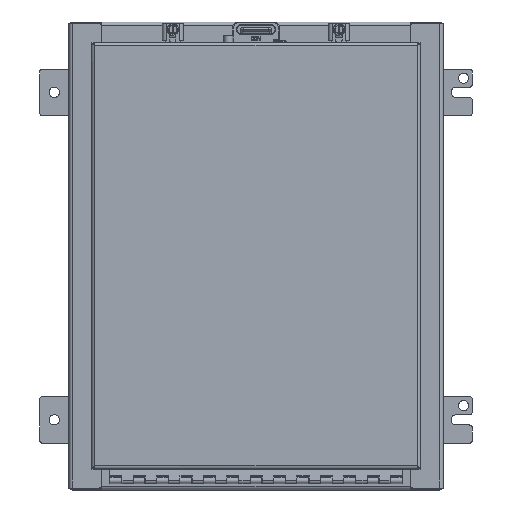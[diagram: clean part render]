
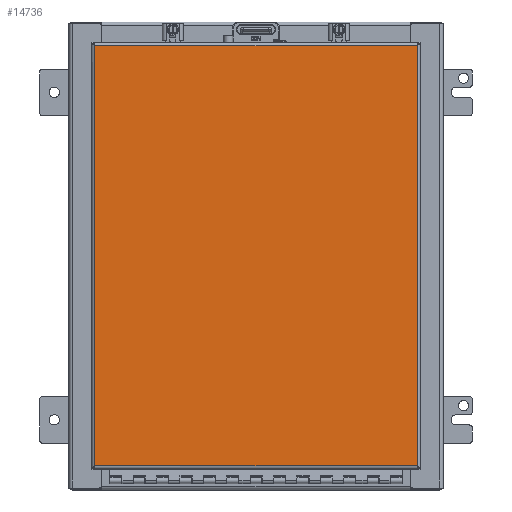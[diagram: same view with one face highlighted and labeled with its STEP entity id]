
A CAD part, top view. The second image highlights one B-rep face of the part: STEP entity #14736.
In plain terms, the highlighted planar face has unit normal (0, 0, 1) as drawn and (0, 1, 0) by its records, which use the part's own axes.
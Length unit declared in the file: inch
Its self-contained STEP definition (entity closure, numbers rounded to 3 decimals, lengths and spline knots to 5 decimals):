
#13221=DIRECTION('',(0.,0.,1.));
#13222=VECTOR('',#13221,17.96);
#13223=CARTESIAN_POINT('',(-6.88638,0.,0.145));
#13224=LINE('',#13223,#13222);
#13277=DIRECTION('',(0.,0.,1.));
#13278=VECTOR('',#13277,17.96);
#13279=CARTESIAN_POINT('',(6.88638,0.,0.145));
#13280=LINE('',#13279,#13278);
#13391=DIRECTION('',(-1.,0.,0.));
#13392=VECTOR('',#13391,13.77275);
#13393=CARTESIAN_POINT('',(6.88638,0.,0.145));
#13394=LINE('',#13393,#13392);
#13907=DIRECTION('',(-1.,0.,0.));
#13908=VECTOR('',#13907,13.77275);
#13909=CARTESIAN_POINT('',(6.88638,0.,18.105));
#13910=LINE('',#13909,#13908);
#14135=CARTESIAN_POINT('',(6.88638,0.,0.145));
#14136=CARTESIAN_POINT('',(-6.88638,0.,0.145));
#14137=VERTEX_POINT('',#14135);
#14138=VERTEX_POINT('',#14136);
#14139=CARTESIAN_POINT('',(6.88638,0.,18.105));
#14140=CARTESIAN_POINT('',(-6.88638,0.,18.105));
#14141=VERTEX_POINT('',#14139);
#14142=VERTEX_POINT('',#14140);
#14722=CARTESIAN_POINT('',(7.03138,0.,0.));
#14723=DIRECTION('',(0.,1.,0.));
#14724=DIRECTION('',(-1.,0.,0.));
#14725=AXIS2_PLACEMENT_3D('',#14722,#14723,#14724);
#14726=PLANE('',#14725);
#14728=ORIENTED_EDGE('',*,*,#14727,.T.);
#14730=ORIENTED_EDGE('',*,*,#14729,.T.);
#14731=ORIENTED_EDGE('',*,*,#14712,.F.);
#14733=ORIENTED_EDGE('',*,*,#14732,.F.);
#14734=EDGE_LOOP('',(#14728,#14730,#14731,#14733));
#14735=FACE_OUTER_BOUND('',#14734,.F.);
#14712=EDGE_CURVE('',#14138,#14142,#13224,.T.);
#14727=EDGE_CURVE('',#14137,#14141,#13280,.T.);
#14729=EDGE_CURVE('',#14141,#14142,#13910,.T.);
#14732=EDGE_CURVE('',#14137,#14138,#13394,.T.);
#14736=ADVANCED_FACE('',(#14735),#14726,.T.);
